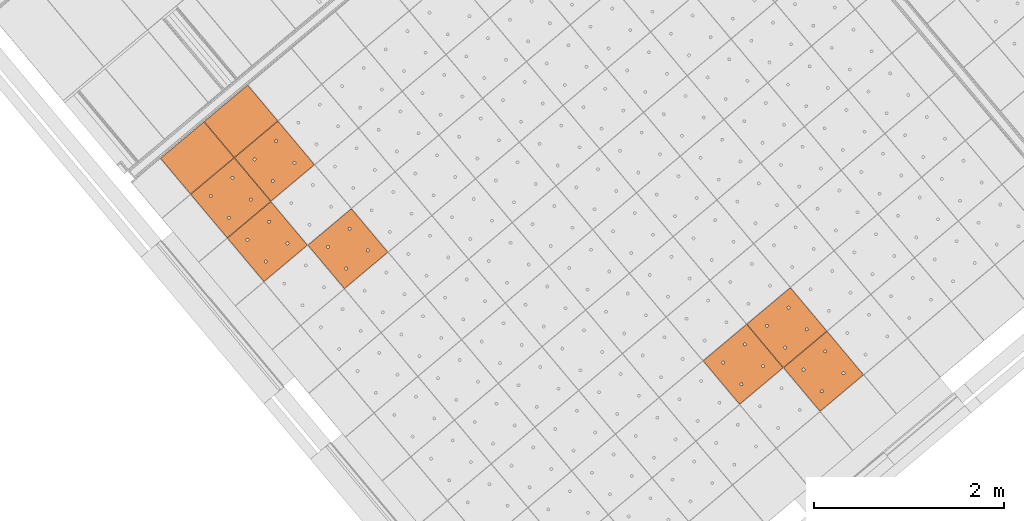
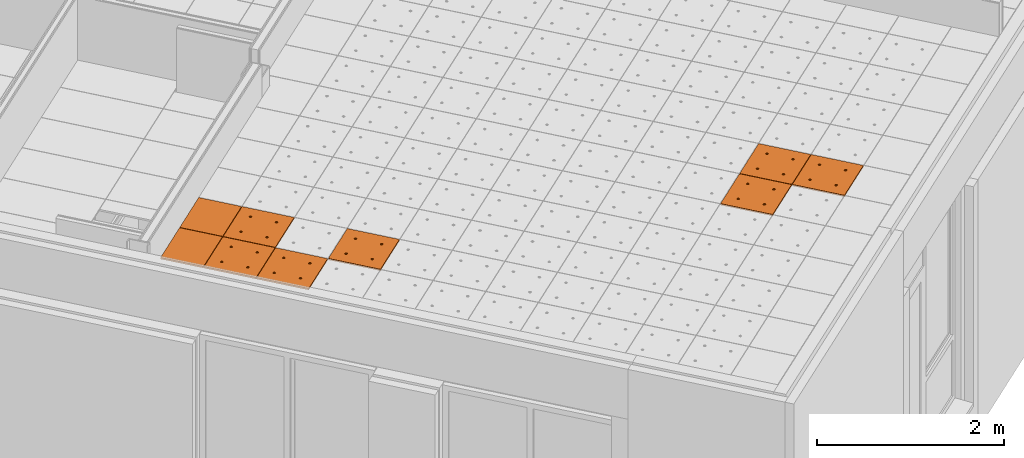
# One storey, part 127 of 338: 9 proxies, 1 element without a shape of its own.
"""IFC2X3 building model written with IfcOpenShell, lengths in millimetres."""

from ifc_helpers import new_model, entity, si_unit, converted_unit, derived_unit, money_unit, direction, frame, origin_with_axes, place, context, subcontext, project, spatial, faceted_brep, source, transform, mapped, material, type_object, type_shapes, element, aggregate, save


model = new_model("IFC2X3")

# Units and contexts
model_context = context("Model", 3, precision=0.01, world=origin_with_axes(), true_north=direction((0.0, 1.0)))
plan_context = context("Plan", 3, precision=0.01, world=origin_with_axes(), true_north=direction((0.0, 1.0)))
body_context = subcontext(model_context, "Body", "Model", "MODEL_VIEW")
ifc_project = project(units=[si_unit("LENGTHUNIT", "METRE", prefix="MILLI"), si_unit("AREAUNIT", "SQUARE_METRE"), si_unit("VOLUMEUNIT", "CUBIC_METRE"), converted_unit("PLANEANGLEUNIT", "DEGREE", entity("IfcPlaneAngleMeasure", 0.0174532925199), si_unit("PLANEANGLEUNIT", "RADIAN"), dimensions=[0, 0, 0, 0, 0, 0, 0]), money_unit("EUR"), converted_unit("TIMEUNIT", "Year", entity("IfcTimeMeasure", 31556926.0), si_unit("TIMEUNIT", "SECOND"), dimensions=[0, 0, 1, 0, 0, 0, 0]), si_unit("MASSUNIT", "GRAM", prefix="KILO"), si_unit("THERMODYNAMICTEMPERATUREUNIT", "DEGREE_CELSIUS"), si_unit("LUMINOUSINTENSITYUNIT", "LUMEN"), si_unit("ENERGYUNIT", "JOULE", prefix="MEGA"), derived_unit("THERMALCONDUCTANCEUNIT", [(si_unit("POWERUNIT", "WATT"), 1), (si_unit("LENGTHUNIT", "METRE"), -1), (si_unit("THERMODYNAMICTEMPERATUREUNIT", "KELVIN"), -1)]), derived_unit("SPECIFICHEATCAPACITYUNIT", [(si_unit("ENERGYUNIT", "JOULE"), 1), (si_unit("MASSUNIT", "GRAM", prefix="KILO"), -1), (si_unit("THERMODYNAMICTEMPERATUREUNIT", "KELVIN"), -1)]), derived_unit("MASSDENSITYUNIT", [(si_unit("MASSUNIT", "GRAM", prefix="KILO"), 1), (si_unit("VOLUMEUNIT", "CUBIC_METRE"), -1)])], contexts=[model_context, plan_context])

# Site, building, storey
site_placement = place(None, origin_with_axes())
site = spatial("IfcSite", under=ifc_project, at=site_placement, Name="Fortuinstraat Woensdrecht", CompositionType="ELEMENT")
building_placement = place(site_placement, origin_with_axes())
building = spatial("IfcBuilding", under=site, at=building_placement, Name="IKC Fortuna", CompositionType="ELEMENT")
storey_placement = place(building_placement, origin_with_axes())
storey = spatial("IfcBuildingStorey", under=building, at=storey_placement, Name="00 begane grond", CompositionType="ELEMENT", Elevation=0.0)

# Covering, proxies
covering_type = type_object("IfcCoveringType", Name="Curtain Wall Type", PredefinedType="CEILING")
covering_placement = place(storey_placement, frame((15150.6418133, -6622.13986243, 4660.0), z_axis=(0.0, 0.0, 1.0), x_axis=(1.0, 0.0, 0.0)))
covering = element("IfcCovering", 1, at=covering_placement, inside=storey, type_object=covering_type, Name="45_Plafondafwerking_P01", PredefinedType="CEILING")
ifc_material = material(Name="Gipsplaat")
building_element_proxy_type_1 = type_object("IfcBuildingElementProxyType", Name="Main Panel 600 x 600 x 20", PredefinedType="NOTDEFINED")
shared_shape_1 = source(origin_with_axes(), body_context, "Body", "Brep", [
    faceted_brep([(2.49999999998, 2.49999999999, -10.0), (300.0, 2.49999999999, -10.0), (300.0, 2.49999999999, 10.0), (2.49999999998, 2.49999999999, 10.0), (2.49999999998, 300.0, -10.0), (2.49999999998, 597.5, -10.0), (300.0, 597.5, -10.0), (597.5, 597.5, -10.0), (597.5, 300.0, -10.0), (597.5, 2.49999999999, -10.0), (166.25, 450.06232995, -10.0), (165.79423259, 452.64711538, -10.0), (164.896546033, 455.11348892, -10.0), (163.58421608, 457.38651108, -10.0), (161.897117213, 459.39711721, -10.0), (159.886511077, 461.08421608, -10.0), (157.613488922, 462.39654603, -10.0), (155.147115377, 463.29423259, -10.0), (152.562329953, 463.75, -10.0), (149.937670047, 463.75, -10.0), (147.352884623, 463.29423259, -10.0), (144.886511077, 462.39654603, -10.0), (142.613488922, 461.08421608, -10.0), (140.602882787, 459.39711721, -10.0), (138.91578392, 457.38651108, -10.0), (137.603453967, 455.11348892, -10.0), (136.705767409, 452.64711538, -10.0), (136.25, 450.06232995, -10.0), (136.25, 448.75, -10.0), (136.25, 447.43767005, -10.0), (136.705767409, 444.85288462, -10.0), (137.603453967, 442.38651108, -10.0), (138.91578392, 440.11348892, -10.0), (140.602882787, 438.10288279, -10.0), (142.613488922, 436.41578392, -10.0), (144.886511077, 435.10345397, -10.0), (147.352884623, 434.20576741, -10.0), (149.937670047, 433.75, -10.0), (152.562329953, 433.75, -10.0), (155.147115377, 434.20576741, -10.0), (157.613488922, 435.10345397, -10.0), (159.886511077, 436.41578392, -10.0), (161.897117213, 438.10288279, -10.0), (163.58421608, 440.11348892, -10.0), (164.896546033, 442.38651108, -10.0), (165.79423259, 444.85288462, -10.0), (166.25, 447.43767005, -10.0), (463.75, 450.06232995, -10.0), (463.29423259, 452.64711538, -10.0), (462.396546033, 455.11348892, -10.0), (461.08421608, 457.38651108, -10.0), (459.397117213, 459.39711721, -10.0), (457.386511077, 461.08421608, -10.0), (455.113488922, 462.39654603, -10.0), (452.647115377, 463.29423259, -10.0), (450.062329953, 463.75, -10.0), (447.437670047, 463.75, -10.0), (444.852884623, 463.29423259, -10.0), (442.386511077, 462.39654603, -10.0), (440.113488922, 461.08421608, -10.0), (438.102882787, 459.39711721, -10.0), (436.41578392, 457.38651108, -10.0), (435.103453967, 455.11348892, -10.0), (434.205767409, 452.64711538, -10.0), (433.75, 450.06232995, -10.0), (433.75, 448.75, -10.0), (433.75, 447.43767005, -10.0), (434.205767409, 444.85288462, -10.0), (435.103453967, 442.38651108, -10.0), (436.41578392, 440.11348892, -10.0), (438.102882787, 438.10288279, -10.0), (440.113488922, 436.41578392, -10.0), (442.386511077, 435.10345397, -10.0), (444.852884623, 434.20576741, -10.0), (447.437670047, 433.75, -10.0), (450.062329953, 433.75, -10.0), (452.647115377, 434.20576741, -10.0), (455.113488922, 435.10345397, -10.0), (457.386511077, 436.41578392, -10.0), (459.397117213, 438.10288279, -10.0), (461.08421608, 440.11348892, -10.0), (462.396546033, 442.38651108, -10.0), (463.29423259, 444.85288462, -10.0), (463.75, 447.43767005, -10.0), (463.75, 152.56232995, -10.0), (463.29423259, 155.14711538, -10.0), (462.396546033, 157.61348892, -10.0), (461.08421608, 159.88651108, -10.0), (459.397117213, 161.89711721, -10.0), (457.386511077, 163.58421608, -10.0), (455.113488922, 164.89654603, -10.0), (452.647115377, 165.79423259, -10.0), (450.062329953, 166.25, -10.0), (447.437670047, 166.25, -10.0), (444.852884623, 165.79423259, -10.0), (442.386511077, 164.89654603, -10.0), (440.113488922, 163.58421608, -10.0), (438.102882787, 161.89711721, -10.0), (436.41578392, 159.88651108, -10.0), (435.103453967, 157.61348892, -10.0), (434.205767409, 155.14711538, -10.0), (433.75, 152.56232995, -10.0), (433.75, 151.25, -10.0), (433.75, 149.93767005, -10.0), (434.205767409, 147.35288462, -10.0), (435.103453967, 144.88651108, -10.0), (436.41578392, 142.61348892, -10.0), (438.102882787, 140.60288279, -10.0), (440.113488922, 138.91578392, -10.0), (442.386511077, 137.60345397, -10.0), (444.852884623, 136.70576741, -10.0), (447.437670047, 136.25, -10.0), (450.062329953, 136.25, -10.0), (452.647115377, 136.70576741, -10.0), (455.113488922, 137.60345397, -10.0), (457.386511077, 138.91578392, -10.0), (459.397117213, 140.60288279, -10.0), (461.08421608, 142.61348892, -10.0), (462.396546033, 144.88651108, -10.0), (463.29423259, 147.35288462, -10.0), (463.75, 149.93767005, -10.0), (166.25, 152.56232995, -10.0), (165.79423259, 155.14711538, -10.0), (164.896546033, 157.61348892, -10.0), (163.58421608, 159.88651108, -10.0), (161.897117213, 161.89711721, -10.0), (159.886511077, 163.58421608, -10.0), (157.613488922, 164.89654603, -10.0), (155.147115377, 165.79423259, -10.0), (152.562329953, 166.25, -10.0), (149.937670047, 166.25, -10.0), (147.352884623, 165.79423259, -10.0), (144.886511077, 164.89654603, -10.0), (142.613488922, 163.58421608, -10.0), (140.602882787, 161.89711721, -10.0), (138.91578392, 159.88651108, -10.0), (137.603453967, 157.61348892, -10.0), (136.705767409, 155.14711538, -10.0), (136.25, 152.56232995, -10.0), (136.25, 151.25, -10.0), (136.25, 149.93767005, -10.0), (136.705767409, 147.35288462, -10.0), (137.603453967, 144.88651108, -10.0), (138.91578392, 142.61348892, -10.0), (140.602882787, 140.60288279, -10.0), (142.613488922, 138.91578392, -10.0), (144.886511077, 137.60345397, -10.0), (147.352884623, 136.70576741, -10.0), (149.937670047, 136.25, -10.0), (152.562329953, 136.25, -10.0), (155.147115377, 136.70576741, -10.0), (157.613488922, 137.60345397, -10.0), (159.886511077, 138.91578392, -10.0), (161.897117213, 140.60288279, -10.0), (163.58421608, 142.61348892, -10.0), (164.896546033, 144.88651108, -10.0), (165.79423259, 147.35288462, -10.0), (166.25, 149.93767005, -10.0), (597.5, 2.49999999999, 10.0), (597.5, 300.0, 10.0), (597.5, 597.5, 10.0), (300.0, 597.5, 10.0), (2.49999999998, 597.5, 10.0), (2.49999999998, 300.0, 10.0), (166.25, 450.06232995, 10.0), (166.25, 447.43767005, 10.0), (165.79423259, 444.85288462, 10.0), (164.896546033, 442.38651108, 10.0), (163.58421608, 440.11348892, 10.0), (161.897117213, 438.10288279, 10.0), (159.886511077, 436.41578392, 10.0), (157.613488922, 435.10345397, 10.0), (155.147115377, 434.20576741, 10.0), (152.562329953, 433.75, 10.0), (149.937670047, 433.75, 10.0), (147.352884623, 434.20576741, 10.0), (144.886511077, 435.10345397, 10.0), (142.613488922, 436.41578392, 10.0), (140.602882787, 438.10288279, 10.0), (138.91578392, 440.11348892, 10.0), (137.603453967, 442.38651108, 10.0), (136.705767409, 444.85288462, 10.0), (136.25, 447.43767005, 10.0), (136.25, 448.75, 10.0), (136.25, 450.06232995, 10.0), (136.705767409, 452.64711538, 10.0), (137.603453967, 455.11348892, 10.0), (138.91578392, 457.38651108, 10.0), (140.602882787, 459.39711721, 10.0), (142.613488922, 461.08421608, 10.0), (144.886511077, 462.39654603, 10.0), (147.352884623, 463.29423259, 10.0), (149.937670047, 463.75, 10.0), (152.562329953, 463.75, 10.0), (155.147115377, 463.29423259, 10.0), (157.613488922, 462.39654603, 10.0), (159.886511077, 461.08421608, 10.0), (161.897117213, 459.39711721, 10.0), (163.58421608, 457.38651108, 10.0), (164.896546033, 455.11348892, 10.0), (165.79423259, 452.64711538, 10.0), (463.75, 450.06232995, 10.0), (463.75, 447.43767005, 10.0), (463.29423259, 444.85288462, 10.0), (462.396546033, 442.38651108, 10.0), (461.08421608, 440.11348892, 10.0), (459.397117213, 438.10288279, 10.0), (457.386511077, 436.41578392, 10.0), (455.113488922, 435.10345397, 10.0), (452.647115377, 434.20576741, 10.0), (450.062329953, 433.75, 10.0), (447.437670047, 433.75, 10.0), (444.852884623, 434.20576741, 10.0), (442.386511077, 435.10345397, 10.0), (440.113488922, 436.41578392, 10.0), (438.102882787, 438.10288279, 10.0), (436.41578392, 440.11348892, 10.0), (435.103453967, 442.38651108, 10.0), (434.205767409, 444.85288462, 10.0), (433.75, 447.43767005, 10.0), (433.75, 448.75, 10.0), (433.75, 450.06232995, 10.0), (434.205767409, 452.64711538, 10.0), (435.103453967, 455.11348892, 10.0), (436.41578392, 457.38651108, 10.0), (438.102882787, 459.39711721, 10.0), (440.113488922, 461.08421608, 10.0), (442.386511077, 462.39654603, 10.0), (444.852884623, 463.29423259, 10.0), (447.437670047, 463.75, 10.0), (450.062329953, 463.75, 10.0), (452.647115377, 463.29423259, 10.0), (455.113488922, 462.39654603, 10.0), (457.386511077, 461.08421608, 10.0), (459.397117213, 459.39711721, 10.0), (461.08421608, 457.38651108, 10.0), (462.396546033, 455.11348892, 10.0), (463.29423259, 452.64711538, 10.0), (463.75, 152.56232995, 10.0), (463.75, 149.93767005, 10.0), (463.29423259, 147.35288462, 10.0), (462.396546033, 144.88651108, 10.0), (461.08421608, 142.61348892, 10.0), (459.397117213, 140.60288279, 10.0), (457.386511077, 138.91578392, 10.0), (455.113488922, 137.60345397, 10.0), (452.647115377, 136.70576741, 10.0), (450.062329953, 136.25, 10.0), (447.437670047, 136.25, 10.0), (444.852884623, 136.70576741, 10.0), (442.386511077, 137.60345397, 10.0), (440.113488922, 138.91578392, 10.0), (438.102882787, 140.60288279, 10.0), (436.41578392, 142.61348892, 10.0), (435.103453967, 144.88651108, 10.0), (434.205767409, 147.35288462, 10.0), (433.75, 149.93767005, 10.0), (433.75, 151.25, 10.0), (433.75, 152.56232995, 10.0), (434.205767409, 155.14711538, 10.0), (435.103453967, 157.61348892, 10.0), (436.41578392, 159.88651108, 10.0), (438.102882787, 161.89711721, 10.0), (440.113488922, 163.58421608, 10.0), (442.386511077, 164.89654603, 10.0), (444.852884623, 165.79423259, 10.0), (447.437670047, 166.25, 10.0), (450.062329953, 166.25, 10.0), (452.647115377, 165.79423259, 10.0), (455.113488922, 164.89654603, 10.0), (457.386511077, 163.58421608, 10.0), (459.397117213, 161.89711721, 10.0), (461.08421608, 159.88651108, 10.0), (462.396546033, 157.61348892, 10.0), (463.29423259, 155.14711538, 10.0), (166.25, 152.56232995, 10.0), (166.25, 149.93767005, 10.0), (165.79423259, 147.35288462, 10.0), (164.896546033, 144.88651108, 10.0), (163.58421608, 142.61348892, 10.0), (161.897117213, 140.60288279, 10.0), (159.886511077, 138.91578392, 10.0), (157.613488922, 137.60345397, 10.0), (155.147115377, 136.70576741, 10.0), (152.562329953, 136.25, 10.0), (149.937670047, 136.25, 10.0), (147.352884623, 136.70576741, 10.0), (144.886511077, 137.60345397, 10.0), (142.613488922, 138.91578392, 10.0), (140.602882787, 140.60288279, 10.0), (138.91578392, 142.61348892, 10.0), (137.603453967, 144.88651108, 10.0), (136.705767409, 147.35288462, 10.0), (136.25, 149.93767005, 10.0), (136.25, 151.25, 10.0), (136.25, 152.56232995, 10.0), (136.705767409, 155.14711538, 10.0), (137.603453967, 157.61348892, 10.0), (138.91578392, 159.88651108, 10.0), (140.602882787, 161.89711721, 10.0), (142.613488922, 163.58421608, 10.0), (144.886511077, 164.89654603, 10.0), (147.352884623, 165.79423259, 10.0), (149.937670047, 166.25, 10.0), (152.562329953, 166.25, 10.0), (155.147115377, 165.79423259, 10.0), (157.613488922, 164.89654603, 10.0), (159.886511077, 163.58421608, 10.0), (161.897117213, 161.89711721, 10.0), (163.58421608, 159.88651108, 10.0), (164.896546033, 157.61348892, 10.0), (165.79423259, 155.14711538, 10.0)], [[[0, 1, 2, 3]], [[0, 4, 5, 6, 7, 8, 9, 1], [10, 11, 12, 13, 14, 15, 16, 17, 18, 19, 20, 21, 22, 23, 24, 25, 26, 27, 28, 29, 30, 31, 32, 33, 34, 35, 36, 37, 38, 39, 40, 41, 42, 43, 44, 45, 46], [47, 48, 49, 50, 51, 52, 53, 54, 55, 56, 57, 58, 59, 60, 61, 62, 63, 64, 65, 66, 67, 68, 69, 70, 71, 72, 73, 74, 75, 76, 77, 78, 79, 80, 81, 82, 83], [84, 85, 86, 87, 88, 89, 90, 91, 92, 93, 94, 95, 96, 97, 98, 99, 100, 101, 102, 103, 104, 105, 106, 107, 108, 109, 110, 111, 112, 113, 114, 115, 116, 117, 118, 119, 120], [121, 122, 123, 124, 125, 126, 127, 128, 129, 130, 131, 132, 133, 134, 135, 136, 137, 138, 139, 140, 141, 142, 143, 144, 145, 146, 147, 148, 149, 150, 151, 152, 153, 154, 155, 156, 157]], [[1, 9, 158, 2]], [[3, 2, 158, 159, 160, 161, 162, 163], [164, 165, 166, 167, 168, 169, 170, 171, 172, 173, 174, 175, 176, 177, 178, 179, 180, 181, 182, 183, 184, 185, 186, 187, 188, 189, 190, 191, 192, 193, 194, 195, 196, 197, 198, 199, 200], [201, 202, 203, 204, 205, 206, 207, 208, 209, 210, 211, 212, 213, 214, 215, 216, 217, 218, 219, 220, 221, 222, 223, 224, 225, 226, 227, 228, 229, 230, 231, 232, 233, 234, 235, 236, 237], [238, 239, 240, 241, 242, 243, 244, 245, 246, 247, 248, 249, 250, 251, 252, 253, 254, 255, 256, 257, 258, 259, 260, 261, 262, 263, 264, 265, 266, 267, 268, 269, 270, 271, 272, 273, 274], [275, 276, 277, 278, 279, 280, 281, 282, 283, 284, 285, 286, 287, 288, 289, 290, 291, 292, 293, 294, 295, 296, 297, 298, 299, 300, 301, 302, 303, 304, 305, 306, 307, 308, 309, 310, 311]], [[4, 0, 3, 163]], [[5, 4, 163, 162]], [[6, 5, 162, 161]], [[7, 6, 161, 160]], [[8, 7, 160, 159]], [[9, 8, 159, 158]], [[11, 10, 164, 200]], [[12, 11, 200, 199]], [[13, 12, 199, 198]], [[14, 13, 198, 197]], [[15, 14, 197, 196]], [[16, 15, 196, 195]], [[17, 16, 195, 194]], [[18, 17, 194, 193]], [[19, 18, 193, 192]], [[20, 19, 192, 191]], [[21, 20, 191, 190]], [[22, 21, 190, 189]], [[23, 22, 189, 188]], [[24, 23, 188, 187]], [[25, 24, 187, 186]], [[26, 25, 186, 185]], [[27, 26, 185, 184]], [[28, 27, 184, 183]], [[29, 28, 183, 182]], [[30, 29, 182, 181]], [[31, 30, 181, 180]], [[32, 31, 180, 179]], [[33, 32, 179, 178]], [[34, 33, 178, 177]], [[35, 34, 177, 176]], [[36, 35, 176, 175]], [[37, 36, 175, 174]], [[38, 37, 174, 173]], [[39, 38, 173, 172]], [[40, 39, 172, 171]], [[41, 40, 171, 170]], [[42, 41, 170, 169]], [[43, 42, 169, 168]], [[44, 43, 168, 167]], [[45, 44, 167, 166]], [[46, 45, 166, 165]], [[10, 46, 165, 164]], [[48, 47, 201, 237]], [[49, 48, 237, 236]], [[50, 49, 236, 235]], [[51, 50, 235, 234]], [[52, 51, 234, 233]], [[53, 52, 233, 232]], [[54, 53, 232, 231]], [[55, 54, 231, 230]], [[56, 55, 230, 229]], [[57, 56, 229, 228]], [[58, 57, 228, 227]], [[59, 58, 227, 226]], [[60, 59, 226, 225]], [[61, 60, 225, 224]], [[62, 61, 224, 223]], [[63, 62, 223, 222]], [[64, 63, 222, 221]], [[65, 64, 221, 220]], [[66, 65, 220, 219]], [[67, 66, 219, 218]], [[68, 67, 218, 217]], [[69, 68, 217, 216]], [[70, 69, 216, 215]], [[71, 70, 215, 214]], [[72, 71, 214, 213]], [[73, 72, 213, 212]], [[74, 73, 212, 211]], [[75, 74, 211, 210]], [[76, 75, 210, 209]], [[77, 76, 209, 208]], [[78, 77, 208, 207]], [[79, 78, 207, 206]], [[80, 79, 206, 205]], [[81, 80, 205, 204]], [[82, 81, 204, 203]], [[83, 82, 203, 202]], [[47, 83, 202, 201]], [[85, 84, 238, 274]], [[86, 85, 274, 273]], [[87, 86, 273, 272]], [[88, 87, 272, 271]], [[89, 88, 271, 270]], [[90, 89, 270, 269]], [[91, 90, 269, 268]], [[92, 91, 268, 267]], [[93, 92, 267, 266]], [[94, 93, 266, 265]], [[95, 94, 265, 264]], [[96, 95, 264, 263]], [[97, 96, 263, 262]], [[98, 97, 262, 261]], [[99, 98, 261, 260]], [[100, 99, 260, 259]], [[101, 100, 259, 258]], [[102, 101, 258, 257]], [[103, 102, 257, 256]], [[104, 103, 256, 255]], [[105, 104, 255, 254]], [[106, 105, 254, 253]], [[107, 106, 253, 252]], [[108, 107, 252, 251]], [[109, 108, 251, 250]], [[110, 109, 250, 249]], [[111, 110, 249, 248]], [[112, 111, 248, 247]], [[113, 112, 247, 246]], [[114, 113, 246, 245]], [[115, 114, 245, 244]], [[116, 115, 244, 243]], [[117, 116, 243, 242]], [[118, 117, 242, 241]], [[119, 118, 241, 240]], [[120, 119, 240, 239]], [[84, 120, 239, 238]], [[122, 121, 275, 311]], [[123, 122, 311, 310]], [[124, 123, 310, 309]], [[125, 124, 309, 308]], [[126, 125, 308, 307]], [[127, 126, 307, 306]], [[128, 127, 306, 305]], [[129, 128, 305, 304]], [[130, 129, 304, 303]], [[131, 130, 303, 302]], [[132, 131, 302, 301]], [[133, 132, 301, 300]], [[134, 133, 300, 299]], [[135, 134, 299, 298]], [[136, 135, 298, 297]], [[137, 136, 297, 296]], [[138, 137, 296, 295]], [[139, 138, 295, 294]], [[140, 139, 294, 293]], [[141, 140, 293, 292]], [[142, 141, 292, 291]], [[143, 142, 291, 290]], [[144, 143, 290, 289]], [[145, 144, 289, 288]], [[146, 145, 288, 287]], [[147, 146, 287, 286]], [[148, 147, 286, 285]], [[149, 148, 285, 284]], [[150, 149, 284, 283]], [[151, 150, 283, 282]], [[152, 151, 282, 281]], [[153, 152, 281, 280]], [[154, 153, 280, 279]], [[155, 154, 279, 278]], [[156, 155, 278, 277]], [[157, 156, 277, 276]], [[121, 157, 276, 275]]]),
])
type_shapes(building_element_proxy_type_1, [shared_shape_1])
proxy_1_placement = place(covering_placement, frame((-4555.61499614, -4690.71173931, 2.17603712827e-10), z_axis=(0.0, 0.0, 1.0), x_axis=(1.0, 0.0, 0.0)))
proxy_1 = element("IfcBuildingElementProxy", 2, at=proxy_1_placement, type_object=building_element_proxy_type_1, material=ifc_material, Name="__600x604 Rockfon Krios", context=body_context, shape_type="MappedRepresentation", body=[
    mapped(shared_shape_1, transform((36.9769427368, 422.649625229, 0.0), x_axis=(-0.766044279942, -0.642787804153, 0.0), y_axis=(0.642787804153, -0.766044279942, 0.0), z_axis=(0.0, 0.0, 1.0))),
])
proxy_2_placement = place(covering_placement, frame((-4169.94231365, -5150.33830727, 2.17603712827e-10), z_axis=(0.0, 0.0, 1.0), x_axis=(1.0, 0.0, 0.0)))
proxy_2 = element("IfcBuildingElementProxy", 3, at=proxy_2_placement, type_object=building_element_proxy_type_1, material=ifc_material, Name="__600x607 Rockfon Krios", context=body_context, shape_type="MappedRepresentation", body=[
    mapped(shared_shape_1, transform((36.9769427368, 422.649625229, 0.0), x_axis=(-0.766044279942, -0.642787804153, 0.0), y_axis=(0.642787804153, -0.766044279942, 0.0), z_axis=(0.0, 0.0, 1.0))),
])
proxy_3_placement = place(covering_placement, frame((-3324.64306319, -5224.29219275, 1.97175609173e-10), z_axis=(0.0, 0.0, 1.0), x_axis=(1.0, 0.0, 0.0)))
proxy_3 = element("IfcBuildingElementProxy", 4, at=proxy_3_placement, type_object=building_element_proxy_type_1, material=ifc_material, Name="__600x611 Rockfon Krios", context=body_context, shape_type="MappedRepresentation", body=[
    mapped(shared_shape_1, transform((36.9769427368, 422.649625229, 0.0), x_axis=(-0.766044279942, -0.642787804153, 0.0), y_axis=(0.642787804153, -0.766044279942, 0.0), z_axis=(0.0, 0.0, 1.0))),
])
proxy_4_placement = place(covering_placement, frame((-4095.98842818, -4305.03905682, 1.97175609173e-10), z_axis=(0.0, 0.0, 1.0), x_axis=(1.0, 0.0, 0.0)))
proxy_4 = element("IfcBuildingElementProxy", 5, at=proxy_4_placement, type_object=building_element_proxy_type_1, material=ifc_material, Name="__600x615 Rockfon Krios", context=body_context, shape_type="MappedRepresentation", body=[
    mapped(shared_shape_1, transform((36.9769427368, 422.649625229, 0.0), x_axis=(-0.766044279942, -0.642787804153, 0.0), y_axis=(0.642787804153, -0.766044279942, 0.0), z_axis=(0.0, 0.0, 1.0))),
])
proxy_5_placement = place(covering_placement, frame((1287.52587158, -6053.68818808, 0.0), z_axis=(0.0, 0.0, 1.0), x_axis=(1.0, 0.0, 0.0)))
proxy_5 = element("IfcBuildingElementProxy", 6, at=proxy_5_placement, type_object=building_element_proxy_type_1, material=ifc_material, Name="__600x732 Rockfon Krios", context=body_context, shape_type="MappedRepresentation", body=[
    mapped(shared_shape_1, transform((36.9769427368, 422.649625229, 0.0), x_axis=(-0.766044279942, -0.642787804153, 0.0), y_axis=(0.642787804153, -0.766044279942, 0.0), z_axis=(0.0, 0.0, 1.0))),
])
proxy_6_placement = place(covering_placement, frame((1673.19855408, -6513.31475605, 0.0), z_axis=(0.0, 0.0, 1.0), x_axis=(1.0, 0.0, 0.0)))
proxy_6 = element("IfcBuildingElementProxy", 7, at=proxy_6_placement, type_object=building_element_proxy_type_1, material=ifc_material, Name="__600x733 Rockfon Krios", context=body_context, shape_type="MappedRepresentation", body=[
    mapped(shared_shape_1, transform((36.9769427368, 422.649625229, 0.0), x_axis=(-0.766044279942, -0.642787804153, 0.0), y_axis=(0.642787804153, -0.766044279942, 0.0), z_axis=(0.0, 0.0, 1.0))),
])
proxy_7_placement = place(covering_placement, frame((827.899303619, -6439.36087057, 1.1901590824e-10), z_axis=(0.0, 0.0, 1.0), x_axis=(1.0, 0.0, 0.0)))
proxy_7 = element("IfcBuildingElementProxy", 8, at=proxy_7_placement, type_object=building_element_proxy_type_1, material=ifc_material, Name="__600x741 Rockfon Krios", context=body_context, shape_type="MappedRepresentation", body=[
    mapped(shared_shape_1, transform((36.9769427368, 422.649625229, 0.0), x_axis=(-0.766044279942, -0.642787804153, 0.0), y_axis=(0.642787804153, -0.766044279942, 0.0), z_axis=(0.0, 0.0, 1.0))),
])
building_element_proxy_type_2 = type_object("IfcBuildingElementProxyType", Name="600 x 495 x 20", PredefinedType="NOTDEFINED")
shared_shape_2 = source(origin_with_axes(), body_context, "Body", "Brep", [
    faceted_brep([(2.4999936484, 107.500759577, -10.0), (597.50001212, 107.500757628, -10.0), (597.50001212, 107.500757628, 10.0), (2.4999936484, 107.500759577, 10.0), (2.50000141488, 597.499997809, -10.0), (597.500002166, 597.500010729, -10.0), (597.500002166, 597.500010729, 10.0), (2.50000141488, 597.499997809, 10.0)], [[[0, 1, 2, 3]], [[0, 4, 5, 1]], [[1, 5, 6, 2]], [[3, 2, 6, 7]], [[4, 0, 3, 7]], [[5, 4, 7, 6]]]),
])
proxy_8_placement = place(covering_placement, frame((-4447.91450729, -3885.63010393, 1.97175609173e-10), z_axis=(0.0, 0.0, 1.0), x_axis=(1.0, 0.0, 0.0)))
proxy_8 = element("IfcBuildingElementProxy", 9, at=proxy_8_placement, type_object=building_element_proxy_type_2, material=ifc_material, Name="__600x645 Rockfon Krios", context=body_context, shape_type="MappedRepresentation", body=[
    mapped(shared_shape_2, transform((3.23033935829, 462.867240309, 0.0), x_axis=(-0.766044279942, -0.642787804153, 0.0), y_axis=(0.642787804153, -0.766044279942, 0.0), z_axis=(0.0, 0.0, 1.0))),
])
shared_shape_3 = source(origin_with_axes(), body_context, "Body", "Brep", [
    faceted_brep([(2.4999936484, 107.500759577, -10.0), (597.50001212, 107.500757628, -10.0), (597.50001212, 107.500757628, 10.0), (2.4999936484, 107.500759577, 10.0), (2.50000141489, 597.499997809, -10.0), (597.500002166, 597.500010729, -10.0), (597.500002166, 597.500010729, 10.0), (2.50000141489, 597.499997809, 10.0)], [[[0, 1, 2, 3]], [[0, 4, 5, 1]], [[1, 5, 6, 2]], [[3, 2, 6, 7]], [[4, 0, 3, 7]], [[5, 4, 7, 6]]]),
])
type_shapes(building_element_proxy_type_2, [shared_shape_2, shared_shape_3])
proxy_9_placement = place(covering_placement, frame((-4907.54106916, -4271.30279368, 2.17603712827e-10), z_axis=(0.0, 0.0, 1.0), x_axis=(1.0, 0.0, 0.0)))
proxy_9 = element("IfcBuildingElementProxy", 10, at=proxy_9_placement, type_object=building_element_proxy_type_2, material=ifc_material, Name="__600x672 Rockfon Krios", context=body_context, shape_type="MappedRepresentation", body=[
    mapped(shared_shape_3, transform((3.2303332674, 462.867247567, 0.0), x_axis=(-0.766044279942, -0.642787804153, 0.0), y_axis=(0.642787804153, -0.766044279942, 0.0), z_axis=(0.0, 0.0, 1.0))),
])
aggregate(covering, [proxy_1, proxy_2, proxy_3, proxy_4, proxy_8, proxy_9, proxy_5, proxy_6, proxy_7])

save(model, "model.ifc")
